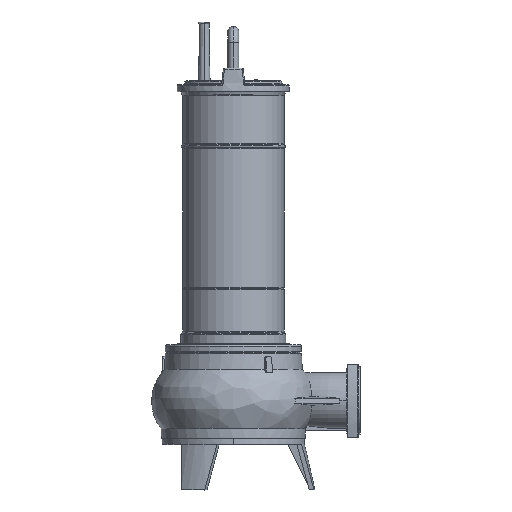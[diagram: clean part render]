
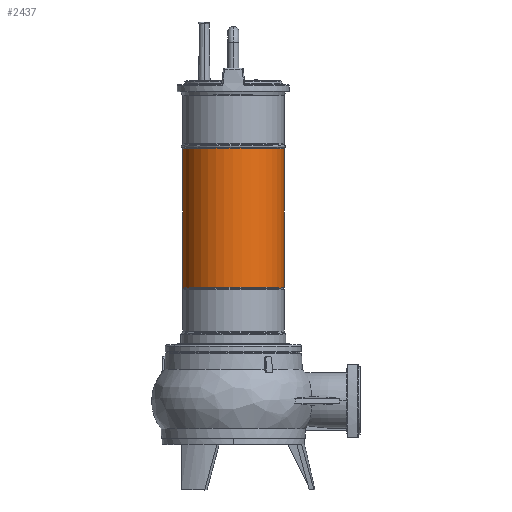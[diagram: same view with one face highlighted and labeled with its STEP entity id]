
A CAD part, top view. The second image highlights one B-rep face of the part: STEP entity #2437.
In plain terms, the highlighted cylindrical face has radius 56 mm (diameter 112 mm), a partial arc.
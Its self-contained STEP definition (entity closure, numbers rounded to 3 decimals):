
#124 = DIRECTION ( 'NONE',  ( 1., 0., 0. ) ) ;
#778 = AXIS2_PLACEMENT_3D ( 'NONE', #10026, #5781, #124 ) ;
#1653 = AXIS2_PLACEMENT_3D ( 'NONE', #14603, #3242, #12639 ) ;
#2437 = ADVANCED_FACE ( 'NONE', ( #10430 ), #13892, .T. ) ;
#2621 = CARTESIAN_POINT ( 'NONE',  ( 56., 172.5, 0. ) ) ;
#3242 = DIRECTION ( 'NONE',  ( 0., 1., 0. ) ) ;
#3377 = CARTESIAN_POINT ( 'NONE',  ( -56., 172.5, 0. ) ) ;
#4184 = VERTEX_POINT ( 'NONE', #11733 ) ;
#4263 = VERTEX_POINT ( 'NONE', #2621 ) ;
#4450 = EDGE_LOOP ( 'NONE', ( #9379, #7663, #5809, #9342 ) ) ;
#5380 = VERTEX_POINT ( 'NONE', #7895 ) ;
#5413 = EDGE_CURVE ( 'NONE', #5380, #4184, #14141, .T. ) ;
#5781 = DIRECTION ( 'NONE',  ( 0., -1., 0. ) ) ;
#5809 = ORIENTED_EDGE ( 'NONE', *, *, #11514, .T. ) ;
#6737 = DIRECTION ( 'NONE',  ( 0., -1., 0. ) ) ;
#7663 = ORIENTED_EDGE ( 'NONE', *, *, #5413, .F. ) ;
#7895 = CARTESIAN_POINT ( 'NONE',  ( -56., 325.704, 0. ) ) ;
#7963 = VECTOR ( 'NONE', #14346, 1000. ) ;
#8448 = VECTOR ( 'NONE', #6737, 1000. ) ;
#9342 = ORIENTED_EDGE ( 'NONE', *, *, #9681, .F. ) ;
#9379 = ORIENTED_EDGE ( 'NONE', *, *, #11614, .F. ) ;
#9681 = EDGE_CURVE ( 'NONE', #4263, #12540, #12935, .T. ) ;
#10026 = CARTESIAN_POINT ( 'NONE',  ( 0., 172.5, 0. ) ) ;
#10430 = FACE_OUTER_BOUND ( 'NONE', #4450, .T. ) ;
#11514 = EDGE_CURVE ( 'NONE', #5380, #12540, #13527, .T. ) ;
#11614 = EDGE_CURVE ( 'NONE', #4184, #4263, #12611, .T. ) ;
#11636 = DIRECTION ( 'NONE',  ( -1., 0., 0. ) ) ;
#11733 = CARTESIAN_POINT ( 'NONE',  ( 56., 325.704, 0. ) ) ;
#12540 = VERTEX_POINT ( 'NONE', #3377 ) ;
#12550 = AXIS2_PLACEMENT_3D ( 'NONE', #13599, #13812, #11636 ) ;
#12611 = LINE ( 'NONE', #13808, #8448 ) ;
#12639 = DIRECTION ( 'NONE',  ( -1., 0., 0. ) ) ;
#12935 = CIRCLE ( 'NONE', #778, 56. ) ;
#13303 = CARTESIAN_POINT ( 'NONE',  ( -56., 325.704, 0. ) ) ;
#13527 = LINE ( 'NONE', #13303, #7963 ) ;
#13599 = CARTESIAN_POINT ( 'NONE',  ( 0., 402.63, 0. ) ) ;
#13808 = CARTESIAN_POINT ( 'NONE',  ( 56., 325.704, 0. ) ) ;
#13812 = DIRECTION ( 'NONE',  ( 0., -1., 0. ) ) ;
#13892 = CYLINDRICAL_SURFACE ( 'NONE', #12550, 56. ) ;
#14141 = CIRCLE ( 'NONE', #1653, 56. ) ;
#14346 = DIRECTION ( 'NONE',  ( 0., -1., 0. ) ) ;
#14603 = CARTESIAN_POINT ( 'NONE',  ( 0., 325.704, 0. ) ) ;
